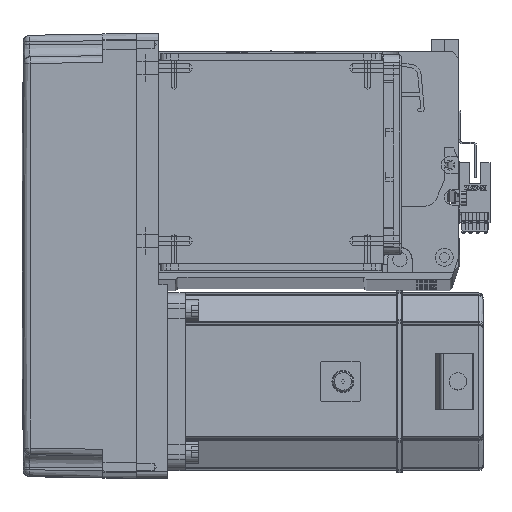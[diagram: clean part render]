
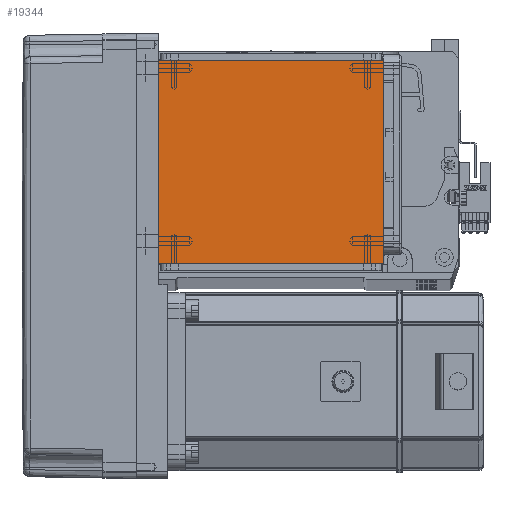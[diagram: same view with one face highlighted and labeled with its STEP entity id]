
A CAD part, top view. The second image highlights one B-rep face of the part: STEP entity #19344.
In plain terms, the highlighted planar face has unit normal (0, 0, 1).
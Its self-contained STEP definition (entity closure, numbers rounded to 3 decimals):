
#1431 = CARTESIAN_POINT ( 'NONE',  ( -50.5, 20., 115. ) ) ;
#1519 = CARTESIAN_POINT ( 'NONE',  ( -50.5, 122., 115. ) ) ;
#4852 = VERTEX_POINT ( 'NONE', #14091 ) ;
#5996 = LINE ( 'NONE', #27381, #12350 ) ;
#7122 = ORIENTED_EDGE ( 'NONE', *, *, #43366, .T. ) ;
#7266 = VECTOR ( 'NONE', #20388, 1000. ) ;
#8508 = PLANE ( 'NONE',  #62211 ) ;
#8781 = ORIENTED_EDGE ( 'NONE', *, *, #13906, .F. ) ;
#8963 = ORIENTED_EDGE ( 'NONE', *, *, #63420, .T. ) ;
#9558 = VERTEX_POINT ( 'NONE', #38027 ) ;
#10182 = EDGE_CURVE ( 'NONE', #50049, #4852, #23189, .T. ) ;
#11477 = DIRECTION ( 'NONE',  ( 0., -1., 0. ) ) ;
#12350 = VECTOR ( 'NONE', #62919, 1000. ) ;
#13387 = EDGE_LOOP ( 'NONE', ( #45225, #8963, #8781, #7122 ) ) ;
#13906 = EDGE_CURVE ( 'NONE', #9558, #47590, #41492, .T. ) ;
#14091 = CARTESIAN_POINT ( 'NONE',  ( 50.5, 111.5, 115. ) ) ;
#19344 = ADVANCED_FACE ( 'NONE', ( #48901 ), #8508, .T. ) ;
#20388 = DIRECTION ( 'NONE',  ( 1., 0., 0. ) ) ;
#23189 = LINE ( 'NONE', #44826, #7266 ) ;
#27381 = CARTESIAN_POINT ( 'NONE',  ( 50.5, 122., 115. ) ) ;
#30089 = DIRECTION ( 'NONE',  ( 0., 0., 1. ) ) ;
#34040 = CARTESIAN_POINT ( 'NONE',  ( -70.004, 20., 115. ) ) ;
#38027 = CARTESIAN_POINT ( 'NONE',  ( 50.5, 20., 115. ) ) ;
#38102 = CARTESIAN_POINT ( 'NONE',  ( -50.5, 111.5, 115. ) ) ;
#41492 = LINE ( 'NONE', #34040, #45383 ) ;
#43366 = EDGE_CURVE ( 'NONE', #9558, #4852, #5996, .T. ) ;
#44826 = CARTESIAN_POINT ( 'NONE',  ( -70.004, 111.5, 115. ) ) ;
#45225 = ORIENTED_EDGE ( 'NONE', *, *, #10182, .F. ) ;
#45383 = VECTOR ( 'NONE', #48282, 1000. ) ;
#47590 = VERTEX_POINT ( 'NONE', #1431 ) ;
#48282 = DIRECTION ( 'NONE',  ( -1., 0., 0. ) ) ;
#48901 = FACE_OUTER_BOUND ( 'NONE', #13387, .T. ) ;
#50049 = VERTEX_POINT ( 'NONE', #38102 ) ;
#51579 = VECTOR ( 'NONE', #11477, 1000. ) ;
#55430 = CARTESIAN_POINT ( 'NONE',  ( 0., 0., 115. ) ) ;
#59516 = LINE ( 'NONE', #1519, #51579 ) ;
#60517 = DIRECTION ( 'NONE',  ( 1., 0., 0. ) ) ;
#62211 = AXIS2_PLACEMENT_3D ( 'NONE', #55430, #30089, #60517 ) ;
#62919 = DIRECTION ( 'NONE',  ( 0., 1., 0. ) ) ;
#63420 = EDGE_CURVE ( 'NONE', #50049, #47590, #59516, .T. ) ;
